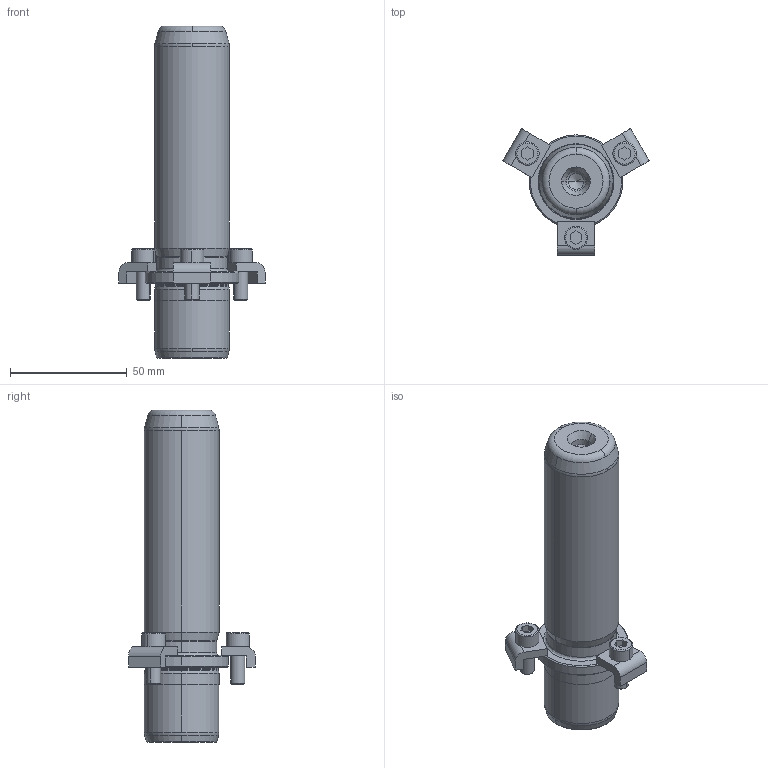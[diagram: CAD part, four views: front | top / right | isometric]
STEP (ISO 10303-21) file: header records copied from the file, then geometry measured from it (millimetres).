
FILE_DESCRIPTION((''),'2;1');
FILE_NAME('P21_032_110.stp','2008-12-23T10:32:51',(''),(''),'Mechanical Desktop 2009','Mechanical Desktop 2009',', , ');
FILE_SCHEMA(('CONFIG_CONTROL_DESIGN'));
Length unit declared in the file: millimetre
Products named in the file (2): Product; blmdl1
Assembly tree (1 placements, depth 2):
  Product
    blmdl1
Bounding box: 62.51 x 54.13 x 142 mm (x, y, z)
Volume: 117593.9 mm3; surface area: 22160.8 mm2
Topology: 7 solids, 7 shells, 163 faces, 399 edges, 257 vertices
Faces by surface type: plane 59, cylinder 44, cone 32, torus 14, bspline 14
Entity records: 5517 total; most frequent: CARTESIAN_POINT 1433, DIRECTION 908, ORIENTED_EDGE 790, EDGE_CURVE 395, AXIS2_PLACEMENT_3D 362, VERTEX_POINT 257, CIRCLE 211, VECTOR 184
